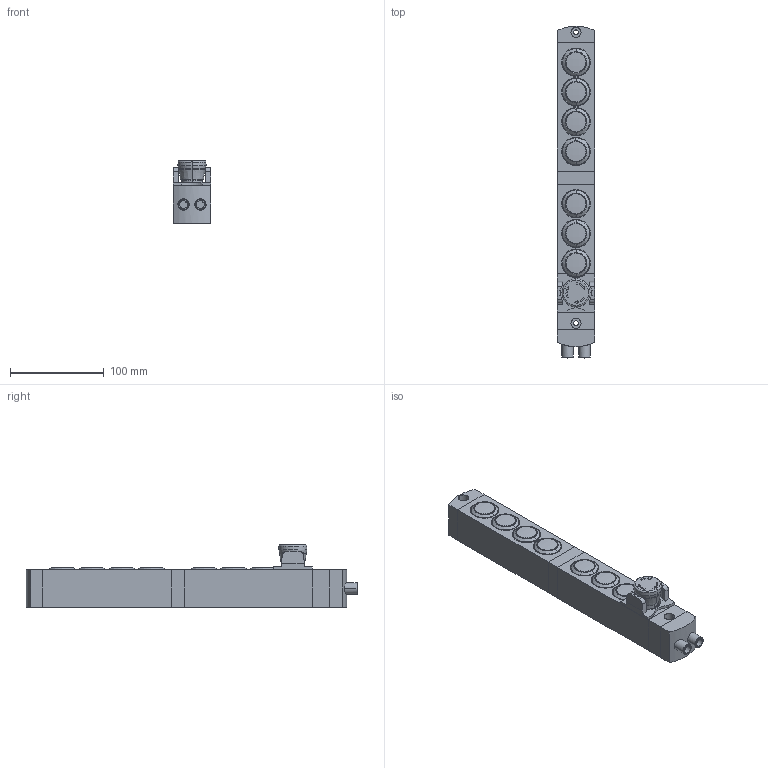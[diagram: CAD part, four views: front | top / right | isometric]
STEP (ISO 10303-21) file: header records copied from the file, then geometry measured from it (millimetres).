
FILE_DESCRIPTION (( 'STEP AP203' ), '1' );
FILE_NAME ('ZF_STEP_BN_AC8EA01.STEP', '2025-11-17T13:44:43', ( '' ), ( '' ), 'SwSTEP 2.0', 'SolidWorks 2023', '' );
FILE_SCHEMA (( 'CONFIG_CONTROL_DESIGN' ));
Length unit declared in the file: millimetre
Products named in the file (13): Pizzato_11135; Pulsante rasato_3DWeb_27121 bianco; Connettore M12 doppio; ZF_STEP_VN_NG-AC27121; Pizzato_4dispositivi; Guardia 11163_3DWeb_default; ZF_STEP_VN_NG-AC26052; Pizzato_11133; ZF_STEP_Guardia 11163; Pizzato_11144; Pulsate emergenza rosso_3DWeb_26052; ZF_STEP_BN_AC8EA01
Assembly tree (19 placements, depth 3):
  ZF_STEP_BN_AC8EA01
    Pizzato_11144
    Pizzato_11135
    Pizzato_4dispositivi  x2
    Pizzato_11133
    Connettore M12 doppio
      Connettore M12 doppio
    ZF_STEP_VN_NG-AC27121  x7
      Pulsante rasato_3DWeb_27121 bianco
    ZF_STEP_VN_NG-AC26052
      Pulsate emergenza rosso_3DWeb_26052
    ZF_STEP_Guardia 11163
      Guardia 11163_3DWeb_default
Bounding box: 40 x 354.1 x 66.7 mm (x, y, z)
Volume: 583492.7 mm3; surface area: 113644.8 mm2
Topology: 15 solids, 17 shells, 1316 faces, 3356 edges, 2230 vertices
Faces by surface type: plane 628, cylinder 307, bspline 257, cone 112, torus 12
Entity records: 25854 total; most frequent: CARTESIAN_POINT 8334, ORIENTED_EDGE 3490, DIRECTION 3002, EDGE_CURVE 1745, VERTEX_POINT 1152, VECTOR 1010, LINE 1010, AXIS2_PLACEMENT_3D 996
